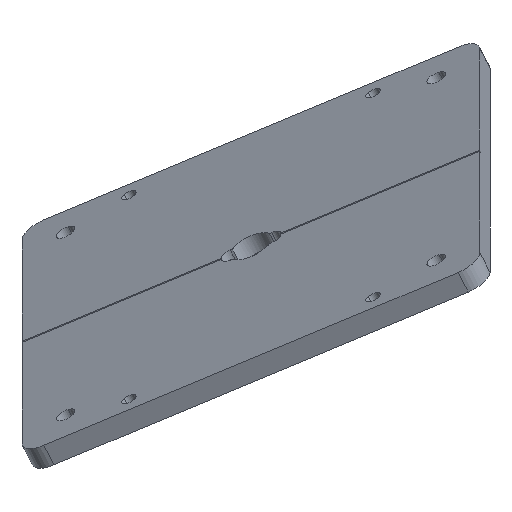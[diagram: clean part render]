
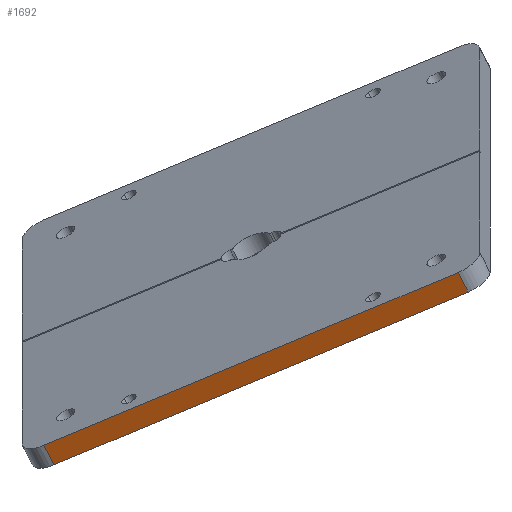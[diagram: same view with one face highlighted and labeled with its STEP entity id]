
A CAD part, left-side view. The second image highlights one B-rep face of the part: STEP entity #1692.
In plain terms, the highlighted planar face has unit normal (-0.895, 0, -0.446).
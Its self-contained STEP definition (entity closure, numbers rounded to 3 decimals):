
#1665=AXIS2_PLACEMENT_3D('Plane Axis2P3D',#1662,#1663,#1664) ;
#1640=CARTESIAN_POINT('Vertex',(-75.745,-41.074,-83.395)) ;
#1643=CARTESIAN_POINT('Line Origine',(-73.723,-43.187,-87.45)) ;
#1647=CARTESIAN_POINT('Vertex',(-71.7,-45.3,-91.506)) ;
#1662=CARTESIAN_POINT('Axis2P3D Location',(-33.981,135.961,-167.146)) ;
#1667=CARTESIAN_POINT('Line Origine',(-53.784,40.799,-127.435)) ;
#1671=CARTESIAN_POINT('Vertex',(-35.867,126.898,-163.364)) ;
#1674=CARTESIAN_POINT('Line Origine',(-57.828,45.025,-119.324)) ;
#1678=CARTESIAN_POINT('Vertex',(-39.912,131.124,-155.254)) ;
#1681=CARTESIAN_POINT('Line Origine',(-37.889,129.011,-159.309)) ;
#1644=DIRECTION('Vector Direction',(-0.404,0.423,0.811)) ;
#1663=DIRECTION('Axis2P3D Direction',(-0.895,0.,-0.446)) ;
#1664=DIRECTION('Axis2P3D XDirection',(-0.189,-0.906,0.378)) ;
#1668=DIRECTION('Vector Direction',(-0.189,-0.906,0.378)) ;
#1675=DIRECTION('Vector Direction',(-0.189,-0.906,0.378)) ;
#1682=DIRECTION('Vector Direction',(-0.404,0.423,0.811)) ;
#1645=VECTOR('Line Direction',#1644,1.) ;
#1669=VECTOR('Line Direction',#1668,1.) ;
#1676=VECTOR('Line Direction',#1675,1.) ;
#1683=VECTOR('Line Direction',#1682,1.) ;
#1687=ORIENTED_EDGE('',*,*,#1673,.F.) ;
#1688=ORIENTED_EDGE('',*,*,#1649,.T.) ;
#1689=ORIENTED_EDGE('',*,*,#1680,.F.) ;
#1690=ORIENTED_EDGE('',*,*,#1685,.F.) ;
#1692=ADVANCED_FACE('\X2\51E04F554F53\X0\.11',(#1691),#1666,.T.) ;
#1649=EDGE_CURVE('',#1648,#1641,#1646,.T.) ;
#1673=EDGE_CURVE('',#1648,#1672,#1670,.F.) ;
#1680=EDGE_CURVE('',#1679,#1641,#1677,.T.) ;
#1685=EDGE_CURVE('',#1672,#1679,#1684,.T.) ;
#1686=EDGE_LOOP('',(#1687,#1688,#1689,#1690)) ;
#1691=FACE_OUTER_BOUND('',#1686,.T.) ;
#1646=LINE('Line',#1643,#1645) ;
#1670=LINE('Line',#1667,#1669) ;
#1677=LINE('Line',#1674,#1676) ;
#1684=LINE('Line',#1681,#1683) ;
#1666=PLANE('',#1665) ;
#1641=VERTEX_POINT('',#1640) ;
#1648=VERTEX_POINT('',#1647) ;
#1672=VERTEX_POINT('',#1671) ;
#1679=VERTEX_POINT('',#1678) ;
